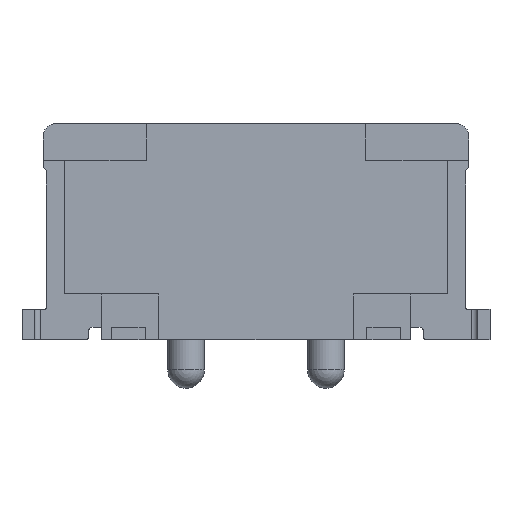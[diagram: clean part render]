
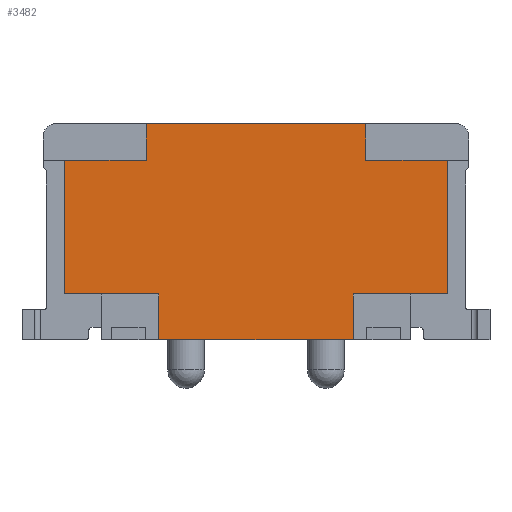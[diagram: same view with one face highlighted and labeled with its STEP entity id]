
A CAD part, front view. The second image highlights one B-rep face of the part: STEP entity #3482.
In plain terms, the highlighted planar face has unit normal (0, -1, 0).
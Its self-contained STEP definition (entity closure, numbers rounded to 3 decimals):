
#2850 = VERTEX_POINT('',#2851);
#2851 = CARTESIAN_POINT('',(1.6,-0.892,
    0.));
#2857 = EDGE_CURVE('',#2858,#2850,#2860,.T.);
#2858 = VERTEX_POINT('',#2859);
#2859 = CARTESIAN_POINT('',(-1.6,-0.892,
    0.));
#2860 = LINE('',#2861,#2862);
#2861 = CARTESIAN_POINT('',(2.55,-0.892,
    0.));
#2862 = VECTOR('',#2863,1.);
#2863 = DIRECTION('',(1.,0.,0.));
#3039 = EDGE_CURVE('',#3040,#3042,#3044,.T.);
#3040 = VERTEX_POINT('',#3041);
#3041 = CARTESIAN_POINT('',(1.6,-0.892,
    0.75));
#3042 = VERTEX_POINT('',#3043);
#3043 = CARTESIAN_POINT('',(3.15,-0.892,
    0.75));
#3044 = LINE('',#3045,#3046);
#3045 = CARTESIAN_POINT('',(2.55,-0.892,
    0.75));
#3046 = VECTOR('',#3047,1.);
#3047 = DIRECTION('',(1.,0.,0.));
#3103 = VERTEX_POINT('',#3104);
#3104 = CARTESIAN_POINT('',(3.15,-0.892,
    2.95));
#3110 = EDGE_CURVE('',#3042,#3103,#3111,.T.);
#3111 = LINE('',#3112,#3113);
#3112 = CARTESIAN_POINT('',(3.15,-0.892,
    0.75));
#3113 = VECTOR('',#3114,1.);
#3114 = DIRECTION('',(0.,0.,1.));
#3231 = VERTEX_POINT('',#3232);
#3232 = CARTESIAN_POINT('',(-1.804,-0.892,
    3.55));
#3238 = EDGE_CURVE('',#3239,#3231,#3241,.T.);
#3239 = VERTEX_POINT('',#3240);
#3240 = CARTESIAN_POINT('',(1.804,-0.892,
    3.55));
#3241 = LINE('',#3242,#3243);
#3242 = CARTESIAN_POINT('',(3.3,-0.892,
    3.55));
#3243 = VECTOR('',#3244,1.);
#3244 = DIRECTION('',(-1.,0.,0.));
#3387 = VERTEX_POINT('',#3388);
#3388 = CARTESIAN_POINT('',(-3.15,-0.892,
    0.75));
#3394 = EDGE_CURVE('',#3395,#3387,#3397,.T.);
#3395 = VERTEX_POINT('',#3396);
#3396 = CARTESIAN_POINT('',(-3.15,-0.892,
    2.95));
#3397 = LINE('',#3398,#3399);
#3398 = CARTESIAN_POINT('',(-3.15,-0.892,
    0.75));
#3399 = VECTOR('',#3400,1.);
#3400 = DIRECTION('',(0.,0.,-1.));
#3436 = VERTEX_POINT('',#3437);
#3437 = CARTESIAN_POINT('',(-1.6,-0.892,
    0.75));
#3443 = EDGE_CURVE('',#3387,#3436,#3444,.T.);
#3444 = LINE('',#3445,#3446);
#3445 = CARTESIAN_POINT('',(-2.55,-0.892,
    0.75));
#3446 = VECTOR('',#3447,1.);
#3447 = DIRECTION('',(1.,0.,0.));
#3482 = ADVANCED_FACE('',(#3483),#3531,.F.);
#3483 = FACE_BOUND('',#3484,.T.);
#3484 = EDGE_LOOP('',(#3485,#3486,#3494,#3500,#3501,#3502,#3508,#3509,
    #3515,#3516,#3517,#3525));
#3485 = ORIENTED_EDGE('',*,*,#3238,.T.);
#3486 = ORIENTED_EDGE('',*,*,#3487,.F.);
#3487 = EDGE_CURVE('',#3488,#3231,#3490,.T.);
#3488 = VERTEX_POINT('',#3489);
#3489 = CARTESIAN_POINT('',(-1.804,-0.892,
    2.95));
#3490 = LINE('',#3491,#3492);
#3491 = CARTESIAN_POINT('',(-1.804,-0.892,
    2.95));
#3492 = VECTOR('',#3493,1.);
#3493 = DIRECTION('',(0.,0.,1.));
#3494 = ORIENTED_EDGE('',*,*,#3495,.T.);
#3495 = EDGE_CURVE('',#3488,#3395,#3496,.T.);
#3496 = LINE('',#3497,#3498);
#3497 = CARTESIAN_POINT('',(-3.3,-0.892,
    2.95));
#3498 = VECTOR('',#3499,1.);
#3499 = DIRECTION('',(-1.,0.,0.));
#3500 = ORIENTED_EDGE('',*,*,#3394,.T.);
#3501 = ORIENTED_EDGE('',*,*,#3443,.T.);
#3502 = ORIENTED_EDGE('',*,*,#3503,.T.);
#3503 = EDGE_CURVE('',#3436,#2858,#3504,.T.);
#3504 = LINE('',#3505,#3506);
#3505 = CARTESIAN_POINT('',(-1.6,-0.892,
    1.868));
#3506 = VECTOR('',#3507,1.);
#3507 = DIRECTION('',(0.,0.,-1.));
#3508 = ORIENTED_EDGE('',*,*,#2857,.T.);
#3509 = ORIENTED_EDGE('',*,*,#3510,.F.);
#3510 = EDGE_CURVE('',#3040,#2850,#3511,.T.);
#3511 = LINE('',#3512,#3513);
#3512 = CARTESIAN_POINT('',(1.6,-0.892,
    1.868));
#3513 = VECTOR('',#3514,1.);
#3514 = DIRECTION('',(0.,0.,-1.));
#3515 = ORIENTED_EDGE('',*,*,#3039,.T.);
#3516 = ORIENTED_EDGE('',*,*,#3110,.T.);
#3517 = ORIENTED_EDGE('',*,*,#3518,.F.);
#3518 = EDGE_CURVE('',#3519,#3103,#3521,.T.);
#3519 = VERTEX_POINT('',#3520);
#3520 = CARTESIAN_POINT('',(1.804,-0.892,
    2.95));
#3521 = LINE('',#3522,#3523);
#3522 = CARTESIAN_POINT('',(3.5,-0.892,
    2.95));
#3523 = VECTOR('',#3524,1.);
#3524 = DIRECTION('',(1.,0.,0.));
#3525 = ORIENTED_EDGE('',*,*,#3526,.T.);
#3526 = EDGE_CURVE('',#3519,#3239,#3527,.T.);
#3527 = LINE('',#3528,#3529);
#3528 = CARTESIAN_POINT('',(1.804,-0.892,
    3.35));
#3529 = VECTOR('',#3530,1.);
#3530 = DIRECTION('',(0.,0.,1.));
#3531 = PLANE('',#3532);
#3532 = AXIS2_PLACEMENT_3D('',#3533,#3534,#3535);
#3533 = CARTESIAN_POINT('',(-3.3,-0.892,
    3.35));
#3534 = DIRECTION('',(0.,1.,0.));
#3535 = DIRECTION('',(-1.,0.,0.));
